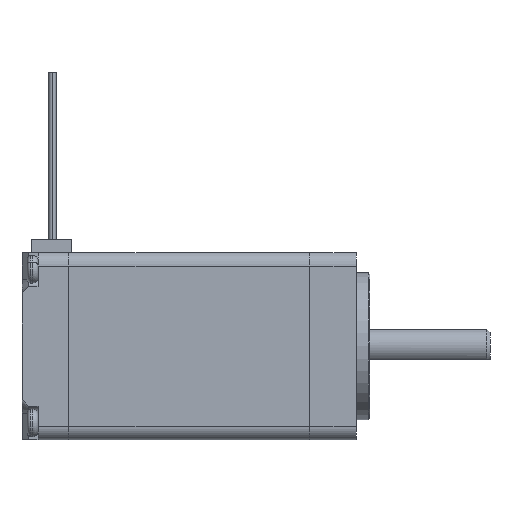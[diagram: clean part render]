
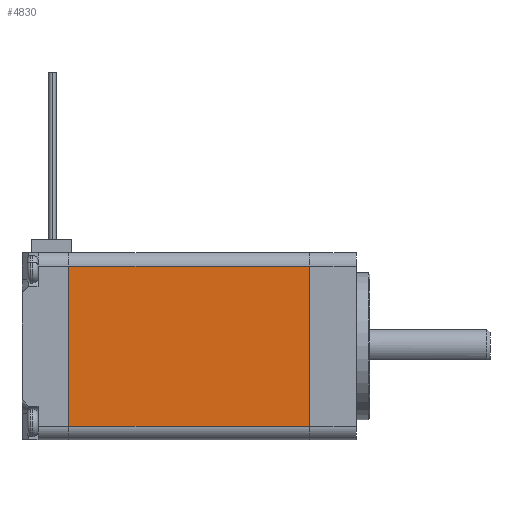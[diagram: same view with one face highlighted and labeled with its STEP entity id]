
A CAD part, left-side view. The second image highlights one B-rep face of the part: STEP entity #4830.
In plain terms, the highlighted planar face has unit normal (-1, 0, 0).
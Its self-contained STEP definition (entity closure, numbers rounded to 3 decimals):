
#14 = CARTESIAN_POINT ( 'NONE',  ( -14., 36.05, -12. ) ) ;
#107 = EDGE_CURVE ( 'NONE', #5196, #6626, #3388, .T. ) ;
#213 = DIRECTION ( 'NONE',  ( 1., 0., 0. ) ) ;
#391 = CARTESIAN_POINT ( 'NONE',  ( -14., 0., 12. ) ) ;
#669 = VECTOR ( 'NONE', #955, 1000. ) ;
#732 = VECTOR ( 'NONE', #1671, 1000. ) ;
#903 = LINE ( 'NONE', #3396, #732 ) ;
#955 = DIRECTION ( 'NONE',  ( 0., -1., 0. ) ) ;
#1239 = EDGE_CURVE ( 'NONE', #6626, #2711, #903, .T. ) ;
#1299 = CARTESIAN_POINT ( 'NONE',  ( -14., 36.05, -12. ) ) ;
#1521 = CARTESIAN_POINT ( 'NONE',  ( -14., 36.05, 12. ) ) ;
#1671 = DIRECTION ( 'NONE',  ( 0., 0., 1. ) ) ;
#1833 = DIRECTION ( 'NONE',  ( 0., -1., 0. ) ) ;
#1890 = PLANE ( 'NONE',  #5159 ) ;
#2053 = EDGE_LOOP ( 'NONE', ( #2194, #6315, #5424, #5236 ) ) ;
#2194 = ORIENTED_EDGE ( 'NONE', *, *, #1239, .T. ) ;
#2287 = EDGE_CURVE ( 'NONE', #5196, #2929, #3503, .T. ) ;
#2711 = VERTEX_POINT ( 'NONE', #391 ) ;
#2929 = VERTEX_POINT ( 'NONE', #3917 ) ;
#3388 = LINE ( 'NONE', #1299, #6045 ) ;
#3396 = CARTESIAN_POINT ( 'NONE',  ( -14., 0., -12. ) ) ;
#3503 = LINE ( 'NONE', #14, #6335 ) ;
#3917 = CARTESIAN_POINT ( 'NONE',  ( -14., 36.05, 12. ) ) ;
#4202 = DIRECTION ( 'NONE',  ( 0., 0., -1. ) ) ;
#4403 = EDGE_CURVE ( 'NONE', #2929, #2711, #5034, .T. ) ;
#4586 = FACE_OUTER_BOUND ( 'NONE', #2053, .T. ) ;
#4830 = ADVANCED_FACE ( 'NONE', ( #4586 ), #1890, .F. ) ;
#5034 = LINE ( 'NONE', #1521, #669 ) ;
#5124 = CARTESIAN_POINT ( 'NONE',  ( -14., 36.05, -12. ) ) ;
#5159 = AXIS2_PLACEMENT_3D ( 'NONE', #6431, #213, #4202 ) ;
#5196 = VERTEX_POINT ( 'NONE', #5124 ) ;
#5200 = CARTESIAN_POINT ( 'NONE',  ( -14., 0., -12. ) ) ;
#5236 = ORIENTED_EDGE ( 'NONE', *, *, #107, .T. ) ;
#5424 = ORIENTED_EDGE ( 'NONE', *, *, #2287, .F. ) ;
#6045 = VECTOR ( 'NONE', #1833, 1000. ) ;
#6315 = ORIENTED_EDGE ( 'NONE', *, *, #4403, .F. ) ;
#6335 = VECTOR ( 'NONE', #6793, 1000. ) ;
#6431 = CARTESIAN_POINT ( 'NONE',  ( -14., 36.05, -12. ) ) ;
#6626 = VERTEX_POINT ( 'NONE', #5200 ) ;
#6793 = DIRECTION ( 'NONE',  ( 0., 0., 1. ) ) ;
